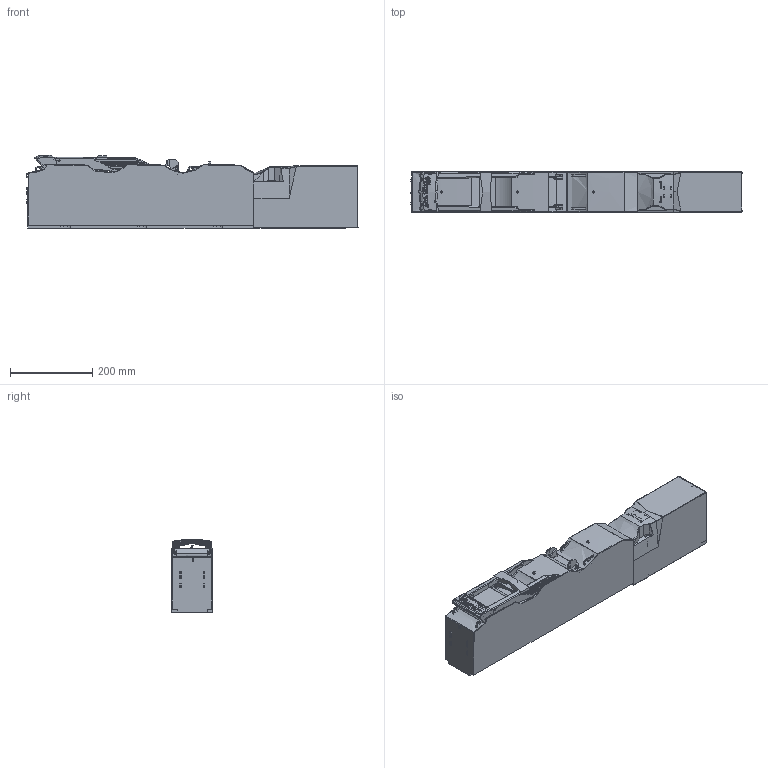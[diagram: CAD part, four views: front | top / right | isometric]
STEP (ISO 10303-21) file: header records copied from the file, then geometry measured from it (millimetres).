
FILE_DESCRIPTION(/* description */ (''),/* implementation_level */ '2;1');
FILE_NAME(/* name */ 'ARS 630KVA.stp',/* time_stamp */ '2020-06-04T09:20:53+02:00',/* author */ (''),/* organization */ (''),/* preprocessor_version */ 'ST-DEVELOPER v16',/* originating_system */ 'SIEMENS PLM Software NX 10.0',/* authorisation */ '');
FILE_SCHEMA (('AUTOMOTIVE_DESIGN { 1 0 10303 214 3 1 1 1 }'));
Products named in the file (1): 710_28585AD8cowl
Bounding box: 805.61 x 99 x 177.16 mm (x, y, z)
Volume: 8938889.3 mm3; surface area: 636394.6 mm2
Topology: 1 solids, 16 shells, 2904 faces, 8133 edges, 5215 vertices
Faces by surface type: bspline 1250, plane 843, cylinder 303, extrusion 295, cone 94, torus 61, sphere 54, revolution 4
Full cylindrical faces by diameter (mm): 6.5 x2, 14 x1, 14.5 x6
Entity records: 161125 total; most frequent: CARTESIAN_POINT 100358, ORIENTED_EDGE 16052, EDGE_CURVE 8026, DIRECTION 7197, B_SPLINE_CURVE_WITH_KNOTS 5233, VERTEX_POINT 5200, EDGE_LOOP 3058, ADVANCED_FACE 2904
